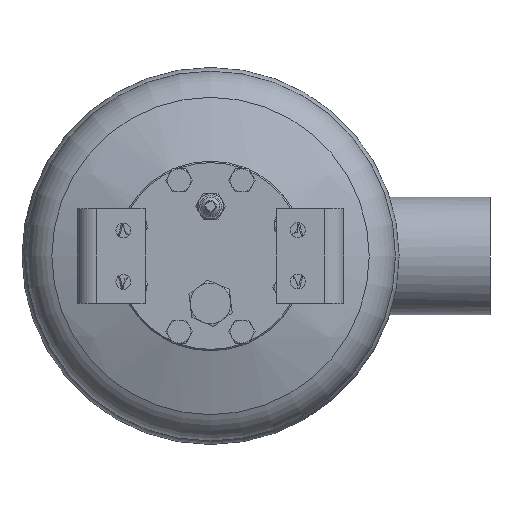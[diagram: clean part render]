
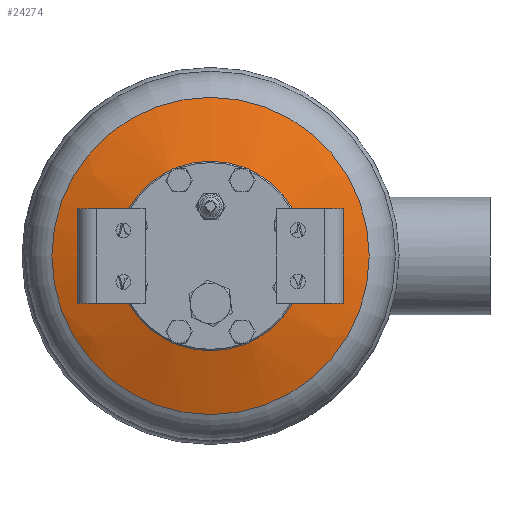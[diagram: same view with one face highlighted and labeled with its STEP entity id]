
A CAD part, front view. The second image highlights one B-rep face of the part: STEP entity #24274.
In plain terms, the highlighted spherical face has radius 279 mm.
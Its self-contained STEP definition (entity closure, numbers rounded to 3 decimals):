
#244=SPHERICAL_SURFACE('',#26052,279.);
#5905=FACE_BOUND('',#8682,.T.);
#7101=FACE_OUTER_BOUND('',#8681,.T.);
#8681=EDGE_LOOP('',(#21475));
#8682=EDGE_LOOP('',(#21476));
#9576=CIRCLE('',#26051,117.235);
#9577=CIRCLE('',#26053,56.118);
#11754=VERTEX_POINT('',#50091);
#11755=VERTEX_POINT('',#50094);
#15097=EDGE_CURVE('',#11754,#11754,#9576,.T.);
#15098=EDGE_CURVE('',#11755,#11755,#9577,.T.);
#21475=ORIENTED_EDGE('',*,*,#15097,.T.);
#21476=ORIENTED_EDGE('',*,*,#15098,.T.);
#24274=ADVANCED_FACE('',(#7101,#5905),#244,.T.);
#26051=AXIS2_PLACEMENT_3D('',#50092,#30835,#30836);
#26052=AXIS2_PLACEMENT_3D('',#50093,#30837,#30838);
#26053=AXIS2_PLACEMENT_3D('',#50095,#30839,#30840);
#30835=DIRECTION('center_axis',(0.,-1.,0.));
#30836=DIRECTION('ref_axis',(-1.,0.,0.));
#30837=DIRECTION('center_axis',(0.,0.,-1.));
#30838=DIRECTION('ref_axis',(-1.,0.,0.));
#30839=DIRECTION('center_axis',(0.,1.,0.));
#30840=DIRECTION('ref_axis',(0.,0.,1.));
#50091=CARTESIAN_POINT('',(-117.235,-61.367,0.));
#50092=CARTESIAN_POINT('Origin',(0.,-61.367,
0.));
#50093=CARTESIAN_POINT('Origin',(0.,191.807,
0.));
#50094=CARTESIAN_POINT('',(0.,-81.491,56.118));
#50095=CARTESIAN_POINT('Origin',(0.,-81.491,0.));
